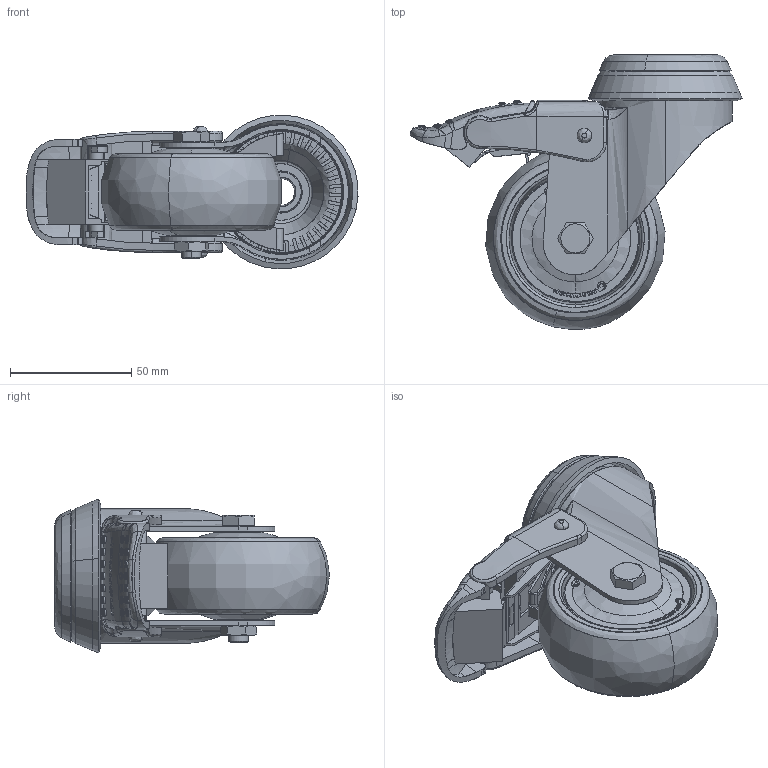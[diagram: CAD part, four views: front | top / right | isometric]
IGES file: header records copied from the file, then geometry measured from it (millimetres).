
Start section: SolidWorks IGES file using analytic representation for surfaces
Global section: file name: O:\ESI NP\IGES\301543_IGES.IGS; native system: SolidWorks 2011; preprocessor: SolidWorks 2011; author: markola; date: 130729.140104; units: millimetre
Bounding box: 136.79 x 113.27 x 63.32 mm (x, y, z)
Surface area: 114932.5 mm2 (no closed solid volume)
Topology: 0 solids, 0 shells, 2197 faces, 23240 edges, 23227 vertices
Faces by surface type: bspline 1648, revolution 549
